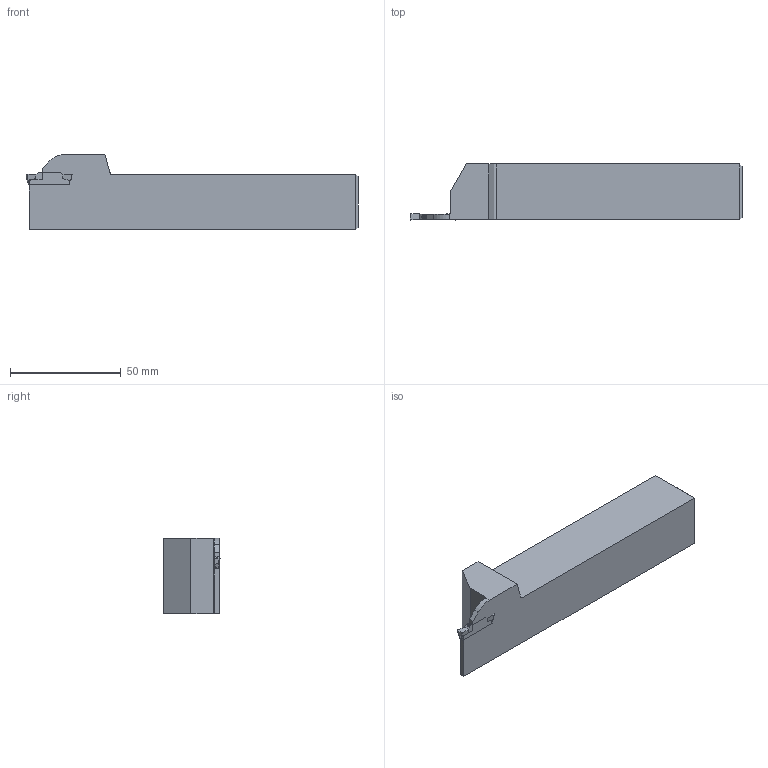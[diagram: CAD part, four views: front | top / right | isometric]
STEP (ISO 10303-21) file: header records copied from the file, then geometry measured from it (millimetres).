
FILE_DESCRIPTION(/* description */ (''),/* implementation_level */ '2;1');
FILE_NAME(/* name */ 'MGEHR2020-3-HAAS.stp',/* time_stamp */ '2021-10-15T15:29:31+09:00',/* author */ (''),/* organization */ (''),/* preprocessor_version */ 'ST-DEVELOPER v11',/* originating_system */ 'SIEMENS UGS NX 6.0',/* authorisation */ '');
FILE_SCHEMA (('CONFIG_CONTROL_DESIGN'));
Length unit declared in the file: millimetre
Products named in the file (1): user478Ezrl9
Bounding box: 150 x 25.34 x 34 mm (x, y, z)
Volume: 86188.5 mm3; surface area: 16171.3 mm2
Topology: 2 solids, 2 shells, 75 faces, 213 edges, 142 vertices
Faces by surface type: plane 53, cylinder 18, extrusion 4
Entity records: 2715 total; most frequent: CARTESIAN_POINT 671, ORIENTED_EDGE 426, DIRECTION 381, EDGE_CURVE 213, VECTOR 165, LINE 161, VERTEX_POINT 142, AXIS2_PLACEMENT_3D 108
